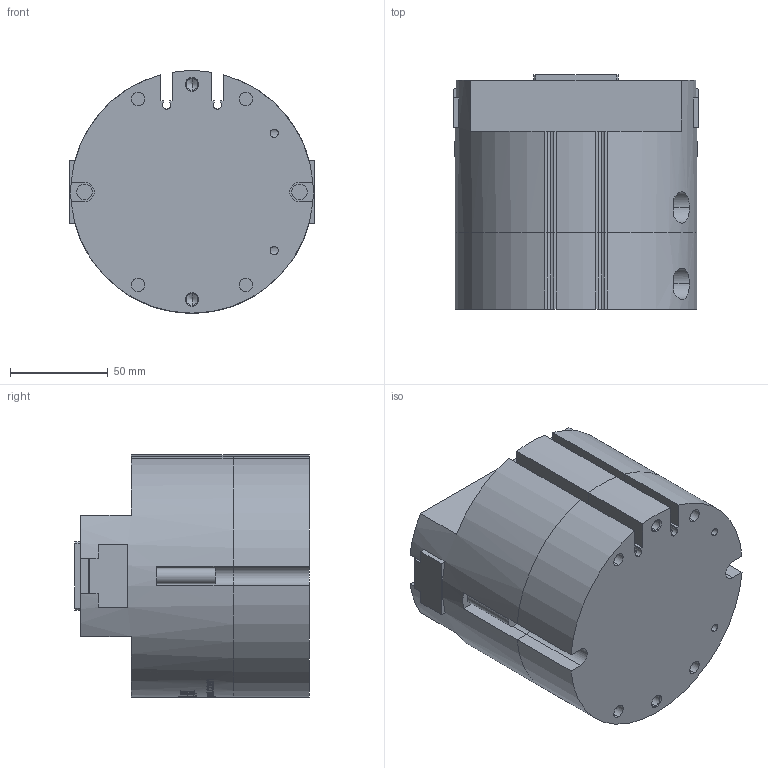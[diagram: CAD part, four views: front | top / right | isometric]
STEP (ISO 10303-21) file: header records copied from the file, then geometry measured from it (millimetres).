
FILE_DESCRIPTION (( 'STEP AP203' ), '1' );
FILE_NAME ('OPM-125-C1-MC&MA-原始檔-組合-W106.04.18.STEP', '2017-04-18T07:37:07', ( 'DanyaoCAD' ), ( '' ), 'SwSTEP 2.0', 'SolidWorks 2016', '' );
FILE_SCHEMA (( 'CONFIG_CONTROL_DESIGN' ));
Length unit declared in the file: millimetre
Products named in the file (4): Griffa; OPM-125-C1-MC&MA-原始檔-組合-W106.04.18; Fondello; Corpo
Assembly tree (4 placements, depth 2):
  OPM-125-C1-MC&MA-原始檔-組合-W106.04.18
    Fondello
    Corpo
    Griffa  x2
Bounding box: 125 x 120 x 123.91 mm (x, y, z)
Volume: 1224043.2 mm3; surface area: 139168.6 mm2
Topology: 4 solids, 4 shells, 1017 faces, 2829 edges, 1868 vertices
Faces by surface type: bspline 665, plane 197, cylinder 127, cone 28
Entity records: 100355 total; most frequent: CARTESIAN_POINT 80518, ORIENTED_EDGE 5466, EDGE_CURVE 2733, B_SPLINE_CURVE_WITH_KNOTS 2045, VERTEX_POINT 1816, DIRECTION 1563, EDGE_LOOP 1063, ADVANCED_FACE 984
